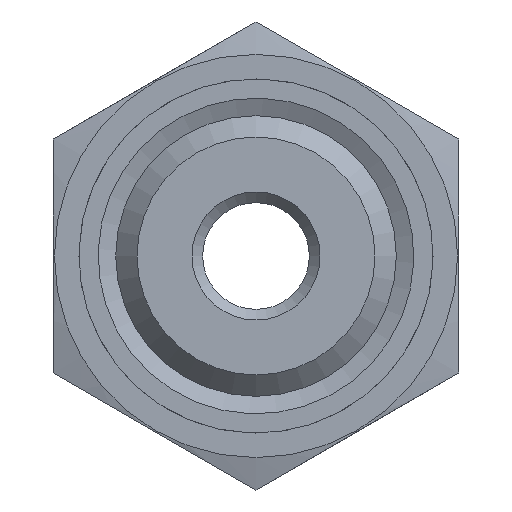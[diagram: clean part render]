
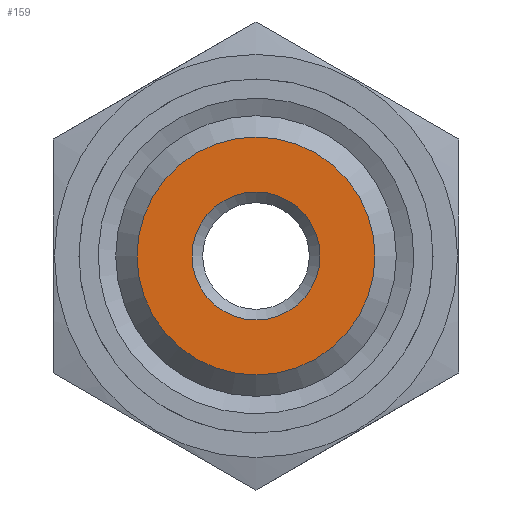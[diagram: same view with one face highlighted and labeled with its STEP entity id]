
A CAD part, left-side view. The second image highlights one B-rep face of the part: STEP entity #159.
In plain terms, the highlighted planar face has unit normal (-1, 0, 0).
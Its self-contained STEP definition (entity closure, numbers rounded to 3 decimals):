
#159 = ADVANCED_FACE( '', ( #319, #320 ), #321, .T. );
#319 = FACE_BOUND( '', #475, .T. );
#320 = FACE_OUTER_BOUND( '', #476, .T. );
#321 = PLANE( '', #477 );
#475 = EDGE_LOOP( '', ( #703 ) );
#476 = EDGE_LOOP( '', ( #704 ) );
#477 = AXIS2_PLACEMENT_3D( '', #705, #706, #707 );
#703 = ORIENTED_EDGE( '', *, *, #814, .T. );
#704 = ORIENTED_EDGE( '', *, *, #764, .T. );
#705 = CARTESIAN_POINT( '', ( -34., -9.5, -5.485 ) );
#706 = DIRECTION( '', ( -1., 0., 0. ) );
#707 = DIRECTION( '', ( 0., -1., 0. ) );
#764 = EDGE_CURVE( '', #854, #854, #855, .T. );
#814 = EDGE_CURVE( '', #933, #933, #934, .F. );
#854 = VERTEX_POINT( '', #999 );
#855 = CIRCLE( '', #1000, 5.579 );
#933 = VERTEX_POINT( '', #1149 );
#934 = CIRCLE( '', #1150, 3. );
#999 = CARTESIAN_POINT( '', ( -34., -5.579, 0. ) );
#1000 = AXIS2_PLACEMENT_3D( '', #1207, #1208, #1209 );
#1149 = CARTESIAN_POINT( '', ( -34., -3., 0. ) );
#1150 = AXIS2_PLACEMENT_3D( '', #1276, #1277, #1278 );
#1207 = CARTESIAN_POINT( '', ( -34., 0., 0. ) );
#1208 = DIRECTION( '', ( -1., 0., 0. ) );
#1209 = DIRECTION( '', ( 0., -1., 0. ) );
#1276 = CARTESIAN_POINT( '', ( -34., 0., 0. ) );
#1277 = DIRECTION( '', ( -1., 0., 0. ) );
#1278 = DIRECTION( '', ( 0., -1., 0. ) );
